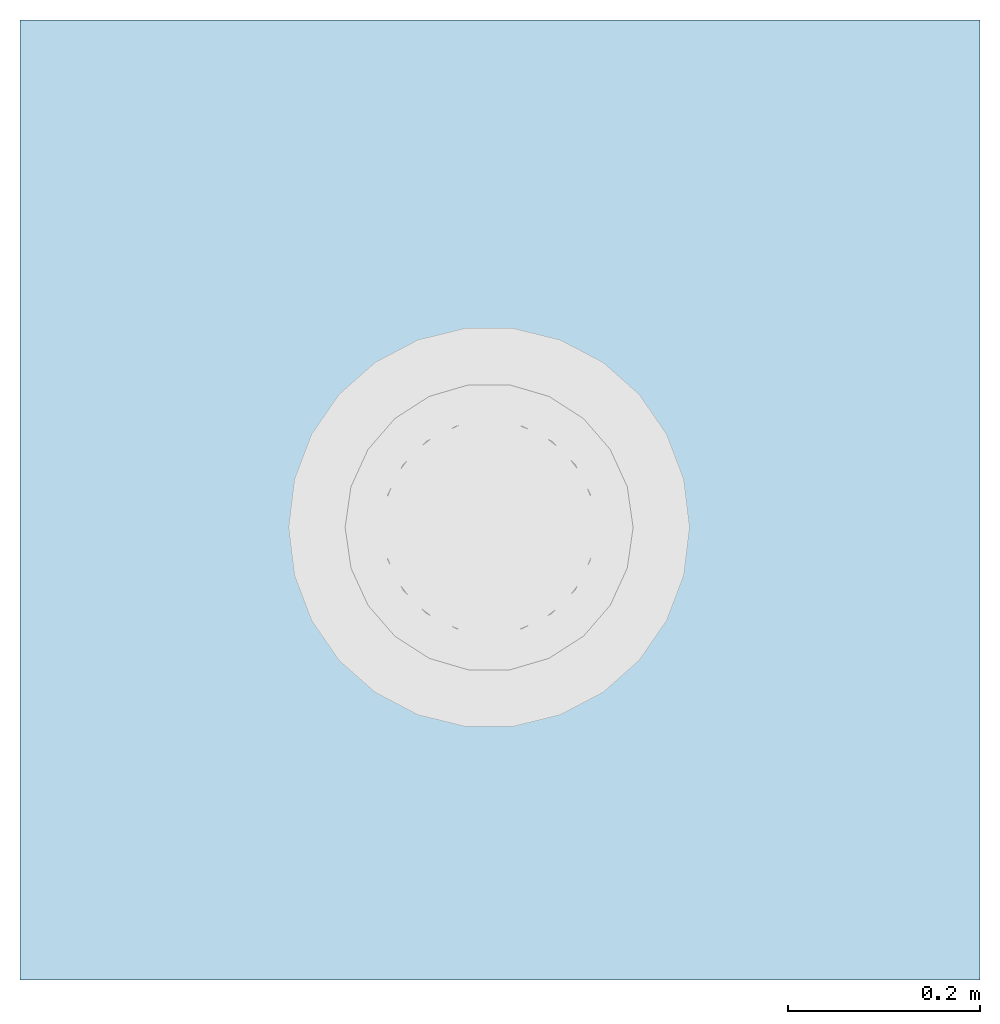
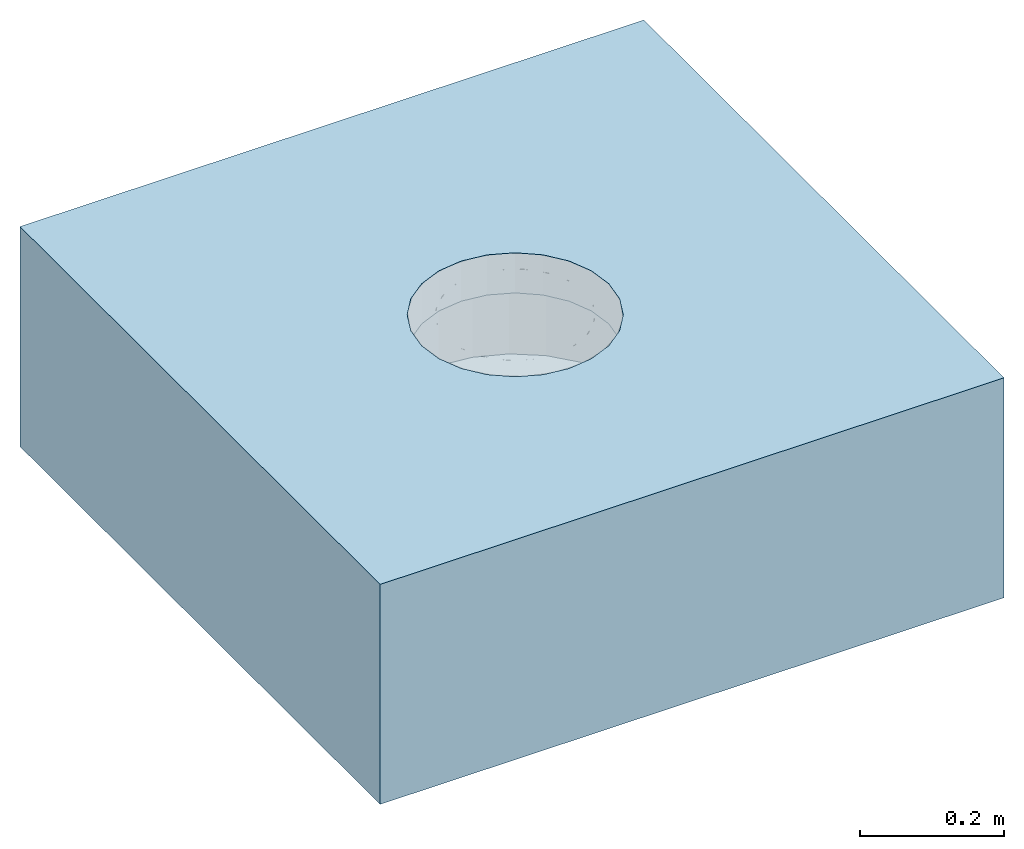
# One storey, incomplete: 1 slab, 1 opening.
"""IFC2X3 building model written with IfcOpenShell, lengths in millimetres."""

from ifc_helpers import new_model, entity, si_unit, converted_unit, derived_unit, direction, frame, frame_2d, origin, place, context, subcontext, project, spatial, rectangle, extrude, faceted_brep, material, layer, layer_set, layer_usage, element, save


model = new_model("IFC2X3")

# Units and contexts
model_context = context("Model", 3, precision=1e-05, world=origin(), true_north=direction((2.0, 6.12303176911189e-17, 1.0)))
context_of_model = context(None, 3, precision=1e-05, world=origin(), true_north=direction((2.0, 6.12303176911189e-17, 1.0)))
body_context = subcontext(model_context, "Body", "Model", "MODEL_VIEW")
ifc_project = project(units=[si_unit("LENGTHUNIT", "METRE", prefix="MILLI"), converted_unit("AREAUNIT", "SQUARE FOOT", entity("IfcRatioMeasure", 0.09290304), si_unit("AREAUNIT", "SQUARE_METRE"), dimensions=[2, 0, 0, 0, 0, 0, 0]), converted_unit("VOLUMEUNIT", "CUBIC FOOT", entity("IfcRatioMeasure", 0.028316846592), si_unit("VOLUMEUNIT", "CUBIC_METRE"), dimensions=[3, 0, 0, 0, 0, 0, 0]), converted_unit("PLANEANGLEUNIT", "DEGREE", entity("IfcRatioMeasure", 0.0174532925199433), si_unit("PLANEANGLEUNIT", "RADIAN"), dimensions=[0, 0, 0, 0, 0, 0, 0]), si_unit("MASSUNIT", "GRAM", prefix="KILO"), si_unit("TIMEUNIT", "SECOND"), si_unit("THERMODYNAMICTEMPERATUREUNIT", "KELVIN"), derived_unit("THERMALTRANSMITTANCEUNIT", [(si_unit("MASSUNIT", "GRAM", prefix="KILO"), 1), (si_unit("THERMODYNAMICTEMPERATUREUNIT", "KELVIN"), -1), (si_unit("TIMEUNIT", "SECOND"), -3)]), derived_unit("VOLUMETRICFLOWRATEUNIT", [(si_unit("LENGTHUNIT", "METRE"), 3), (si_unit("TIMEUNIT", "SECOND"), -1)]), si_unit("POWERUNIT", "WATT")], contexts=[model_context, context_of_model])

# Site, building, storey
site_placement = place(None, origin())
site = spatial("IfcSite", under=ifc_project, at=site_placement, Name="Default", CompositionType="ELEMENT")
building_placement = place(site_placement, origin())
building = spatial("IfcBuilding", under=site, at=building_placement, CompositionType="ELEMENT")
storey_placement = place(building_placement, origin())
storey = spatial("IfcBuildingStorey", under=building, at=storey_placement, Name="Level 1", CompositionType="ELEMENT", Elevation=0.0)

# Slab, opening
ifc_material_1 = material(Name="Plywood, Sheathing")
ifc_layer_1 = layer(ifc_material_1, 68.0)
ifc_material_2 = material(Name="Default Floor")
ifc_layer_2 = layer(ifc_material_2, 304.8)
ifc_layer_set = layer_set([ifc_layer_1, ifc_layer_2], Name="Floor:Generic - 12\"")
ifc_layer_usage = layer_usage(ifc_layer_set, "AXIS3", "POSITIVE", 0.0)
slab_placement = place(storey_placement, frame((-10598.0627721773, 2392.60708548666, -372.8)))
slab = element("IfcSlab", 1, at=slab_placement, inside=storey, material=ifc_layer_usage, Name="Floor:Generic - 12\"", ObjectType="Floor:Generic - 12\"", PredefinedType="FLOOR", context=body_context, shape_type="SweptSolid", body=[
    extrude(rectangle(XDim=1000.0, YDim=1000.0, at=frame_2d((0.0, 0.0), x_axis=(0.0, -1.0))), frame((500.0, 500.0, 372.8), z_axis=(0.0, 0.0, -1.0), x_axis=(-1.0, 0.0, 0.0)), (0.0, 0.0, 1.0), 372.8),
])
opening_placement = place(slab_placement, frame((276.119996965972, 257.38158496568, 150.204727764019)))
element("IfcOpeningElement", 2, at=opening_placement, cuts=slab, ObjectType="Recess", context=body_context, shape_type="Brep", body=[
    faceted_brep([(306.545407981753, 189.115280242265, 7.59527223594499), (306.545407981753, 239.075264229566, 7.59527223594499), (306.545407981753, 201.246010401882, 3.11727236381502), (306.545407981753, 214.095272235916, 1.5952722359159), (306.545407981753, 226.94453406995, 3.11727236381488), (411.545407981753, 214.095272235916, 1.5952722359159), (411.545407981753, 226.94453406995, 3.11727236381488), (411.545407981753, 201.246010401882, 3.11727236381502), (411.545407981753, 239.075264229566, 7.59527223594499), (411.545407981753, 189.115280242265, 7.59527223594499), (360.451389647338, 239.075264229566, 7.59527223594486), (360.451389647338, 189.115280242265, 7.59527223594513), (1.5952722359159, 239.709316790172, 7.59527223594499), (1.5952722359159, 188.48122768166, 7.59527223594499), (13.8549564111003, 289.448810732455, 7.59527223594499), (37.6618364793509, 334.809030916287, 7.59527223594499), (113.79223392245, 402.254677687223, 7.59527223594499), (161.691329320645, 420.420408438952, 7.59527223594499), (71.6323431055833, 373.153806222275, 7.59527223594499), (212.545907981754, 426.595272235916, 7.59527223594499), (37.6618364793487, 93.3815135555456, 7.59527223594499), (13.8549564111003, 138.741733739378, 7.59527223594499), (113.79223392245, 25.9358667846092, 7.59527223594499), (71.6323431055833, 55.036738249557, 7.59527223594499), (161.691329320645, 7.77013603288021, 7.59527223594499), (212.545907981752, 1.59527223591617, 7.59527223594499), (263.400486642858, 7.77013603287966, 7.59527223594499), (263.400486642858, 420.420408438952, 7.59527223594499), (311.299582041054, 402.254677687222, 7.59527223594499), (353.459472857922, 373.153806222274, 7.59527223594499), (387.429979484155, 334.809030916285, 7.59527223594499), (411.236859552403, 289.448810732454, 7.59527223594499), (423.496543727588, 239.709316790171, 7.59527223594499), (353.45947285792, 55.0367382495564, 7.59527223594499), (387.429979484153, 93.3815135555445, 7.59527223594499), (311.299582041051, 25.9358667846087, 7.59527223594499), (423.496543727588, 188.481227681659, 7.59527223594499), (411.236859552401, 138.741733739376, 7.59527223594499), (342.449809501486, 289.095324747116, 154.595272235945), (411.236859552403, 289.448810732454, 154.595272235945), (387.429979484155, 334.809030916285, 154.595272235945), (318.611999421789, 320.16136367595, 154.595272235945), (357.434883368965, 252.91815618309, 154.595272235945), (423.496543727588, 239.709316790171, 154.595272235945), (362.546013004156, 214.095272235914, 154.595272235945), (353.459472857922, 373.153806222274, 154.595272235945), (251.36879192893, 358.984247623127, 154.595272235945), (311.299582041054, 402.254677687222, 154.595272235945), (263.400486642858, 420.420408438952, 154.595272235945), (212.545907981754, 364.095377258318, 154.595272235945), (212.545907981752, 426.595272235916, 154.595272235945), (287.545960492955, 343.99917375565, 154.595272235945), (423.496543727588, 188.481227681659, 154.595272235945), (357.434883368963, 175.272388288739, 154.595272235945), (411.236859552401, 138.741733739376, 154.595272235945), (342.449809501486, 139.095219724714, 154.595272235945), (387.429979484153, 93.3815135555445, 154.595272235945), (353.45947285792, 55.0367382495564, 154.595272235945), (318.611999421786, 108.02918079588, 154.595272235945), (287.545960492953, 84.1913707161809, 154.595272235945), (311.299582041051, 25.9358667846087, 154.595272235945), (263.400486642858, 7.77013603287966, 154.595272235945), (251.368791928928, 69.206296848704, 154.595272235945), (212.545907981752, 64.0951672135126, 154.595272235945), (212.545907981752, 1.59527223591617, 154.595272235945), (161.691329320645, 420.420408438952, 154.595272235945), (173.723024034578, 358.984247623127, 154.595272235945), (113.79223392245, 402.254677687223, 154.595272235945), (137.545855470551, 343.999173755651, 154.595272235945), (71.6323431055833, 373.153806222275, 154.595272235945), (106.479816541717, 320.161363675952, 154.595272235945), (37.6618364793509, 334.809030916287, 154.595272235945), (82.6420064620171, 289.095324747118, 154.595272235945), (13.8549564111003, 289.448810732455, 154.595272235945), (67.6569325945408, 252.918156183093, 154.595272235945), (1.5952722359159, 239.709316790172, 154.595272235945), (62.5458029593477, 214.095272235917, 154.595272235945), (113.79223392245, 25.9358667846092, 154.595272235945), (137.545855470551, 84.1913707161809, 154.595272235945), (71.6323431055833, 55.036738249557, 154.595272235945), (173.723024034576, 69.206296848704, 154.595272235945), (161.691329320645, 7.77013603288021, 154.595272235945), (106.479816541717, 108.02918079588, 154.595272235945), (67.6569325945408, 175.272388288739, 154.595272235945), (1.5952722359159, 188.48122768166, 154.595272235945), (13.8549564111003, 138.741733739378, 154.595272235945), (37.6618364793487, 93.3815135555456, 154.595272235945), (82.6420064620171, 139.095219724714, 154.595272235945), (251.368791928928, 69.206296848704, 222.595272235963), (137.545855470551, 84.1913707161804, 222.595272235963), (212.545907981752, 64.0951672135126, 222.595272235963), (318.611999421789, 108.02918079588, 222.595272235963), (287.545960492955, 84.1913707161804, 222.595272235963), (342.449809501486, 139.095219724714, 222.595272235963), (357.434883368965, 175.272388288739, 222.595272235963), (82.6420064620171, 139.095219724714, 222.595272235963), (106.479816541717, 108.02918079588, 222.595272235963), (173.723024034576, 69.206296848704, 222.595272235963), (67.6569325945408, 175.272388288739, 222.595272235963), (62.5458029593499, 214.095272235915, 222.595272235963), (357.434883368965, 252.918156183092, 222.595272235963), (251.368791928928, 358.984247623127, 222.595272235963), (342.449809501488, 289.095324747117, 222.595272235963), (287.545960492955, 343.99917375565, 222.595272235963), (318.611999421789, 320.161363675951, 222.595272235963), (67.6569325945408, 252.918156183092, 222.595272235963), (106.479816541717, 320.161363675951, 222.595272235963), (82.6420064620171, 289.095324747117, 222.595272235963), (137.545855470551, 343.99917375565, 222.595272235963), (173.723024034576, 358.984247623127, 222.595272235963), (212.545907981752, 364.095377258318, 222.595272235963), (362.546013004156, 214.095272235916, 222.595272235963)], [[[0, 1, 2]], [[1, 3, 2]], [[3, 1, 4]], [[5, 6, 7]], [[7, 8, 9]], [[8, 7, 6]], [[3, 4, 5]], [[5, 4, 6]], [[10, 6, 4]], [[8, 6, 10]], [[10, 4, 1]], [[11, 7, 9]], [[2, 11, 0]], [[2, 3, 7]], [[5, 7, 3]], [[2, 7, 11]], [[12, 1, 13]], [[1, 12, 14]], [[15, 1, 14]], [[1, 16, 17]], [[16, 1, 18]], [[1, 15, 18]], [[19, 1, 17]], [[20, 21, 0]], [[0, 22, 23]], [[20, 0, 23]], [[24, 22, 0]], [[21, 13, 0]], [[25, 24, 0]], [[25, 0, 26]], [[19, 27, 1]], [[28, 29, 1]], [[30, 10, 1]], [[1, 29, 30]], [[28, 1, 27]], [[31, 8, 10]], [[8, 32, 9]], [[32, 8, 31]], [[31, 10, 30]], [[33, 0, 34]], [[33, 35, 0]], [[0, 11, 34]], [[0, 35, 26]], [[9, 36, 37]], [[36, 9, 32]], [[34, 11, 37]], [[37, 11, 9]], [[1, 0, 13]], [[38, 39, 40]], [[41, 38, 40]], [[39, 42, 43]], [[42, 39, 38]], [[43, 42, 44]], [[40, 45, 41]], [[46, 47, 48]], [[49, 48, 50]], [[46, 48, 49]], [[41, 45, 51]], [[46, 51, 47]], [[51, 45, 47]], [[52, 44, 53]], [[44, 52, 43]], [[52, 53, 54]], [[54, 55, 56]], [[57, 56, 58]], [[55, 54, 53]], [[59, 60, 57]], [[59, 57, 58]], [[61, 60, 62]], [[62, 63, 61]], [[60, 59, 62]], [[61, 63, 64]], [[58, 56, 55]], [[49, 65, 66]], [[66, 65, 67]], [[68, 66, 67]], [[69, 70, 68]], [[68, 67, 69]], [[70, 71, 72]], [[72, 71, 73]], [[73, 74, 72]], [[74, 73, 75]], [[74, 75, 76]], [[71, 70, 69]], [[77, 78, 79]], [[80, 78, 77]], [[81, 64, 63]], [[81, 80, 77]], [[78, 82, 79]], [[63, 80, 81]], [[83, 76, 84]], [[84, 76, 75]], [[83, 84, 85]], [[86, 82, 87]], [[82, 86, 79]], [[85, 86, 87]], [[87, 83, 85]], [[49, 50, 65]], [[64, 25, 26]], [[35, 61, 26]], [[34, 37, 56]], [[57, 33, 34]], [[60, 35, 33]], [[54, 37, 36]], [[26, 61, 64]], [[35, 60, 61]], [[33, 57, 60]], [[34, 56, 57]], [[54, 56, 37]], [[36, 52, 54]], [[36, 32, 52]], [[43, 32, 31]], [[30, 39, 31]], [[28, 27, 47]], [[45, 29, 28]], [[40, 30, 29]], [[48, 27, 19]], [[31, 39, 43]], [[30, 40, 39]], [[29, 45, 40]], [[28, 47, 45]], [[48, 47, 27]], [[19, 50, 48]], [[32, 43, 52]], [[17, 65, 19]], [[16, 67, 17]], [[15, 14, 73]], [[16, 18, 69]], [[14, 12, 73]], [[18, 15, 69]], [[17, 67, 65]], [[65, 50, 19]], [[16, 69, 67]], [[73, 71, 15]], [[12, 75, 73]], [[15, 71, 69]], [[12, 13, 75]], [[84, 13, 21]], [[20, 85, 21]], [[22, 24, 77]], [[79, 23, 22]], [[86, 20, 23]], [[81, 24, 25]], [[21, 85, 84]], [[20, 86, 85]], [[23, 79, 86]], [[22, 77, 79]], [[81, 77, 24]], [[25, 64, 81]], [[13, 84, 75]], [[88, 89, 90]], [[91, 88, 92]], [[91, 93, 94]], [[88, 91, 89]], [[94, 89, 91]], [[89, 95, 96]], [[89, 97, 90]], [[89, 98, 95]], [[98, 89, 99]], [[94, 99, 89]], [[94, 100, 99]], [[99, 100, 101]], [[101, 100, 102]], [[103, 101, 102]], [[103, 102, 104]], [[99, 101, 105]], [[105, 106, 107]], [[106, 105, 108]], [[101, 109, 108]], [[108, 105, 101]], [[110, 109, 101]], [[100, 94, 111]], [[42, 38, 102]], [[44, 42, 100]], [[51, 46, 101]], [[41, 51, 103]], [[38, 41, 104]], [[42, 102, 100]], [[100, 111, 44]], [[104, 102, 38]], [[104, 41, 103]], [[101, 103, 51]], [[101, 46, 110]], [[46, 49, 110]], [[109, 49, 66]], [[109, 66, 68]], [[72, 74, 107]], [[70, 72, 106]], [[68, 70, 108]], [[70, 106, 108]], [[108, 109, 68]], [[74, 105, 107]], [[107, 106, 72]], [[99, 105, 76]], [[74, 76, 105]], [[49, 109, 110]], [[83, 87, 95]], [[76, 83, 98]], [[78, 80, 97]], [[82, 78, 89]], [[87, 82, 96]], [[83, 95, 98]], [[98, 99, 76]], [[97, 89, 78]], [[96, 82, 89]], [[96, 95, 87]], [[90, 97, 80]], [[80, 63, 90]], [[92, 62, 59]], [[88, 63, 62]], [[91, 58, 55]], [[58, 92, 59]], [[93, 55, 53]], [[88, 62, 92]], [[92, 58, 91]], [[53, 94, 93]], [[93, 91, 55]], [[111, 94, 44]], [[53, 44, 94]], [[63, 88, 90]]]),
])

save(model, "model.ifc")
